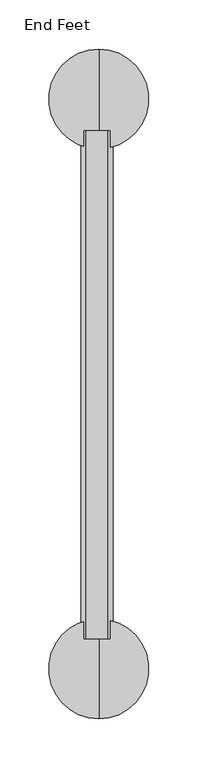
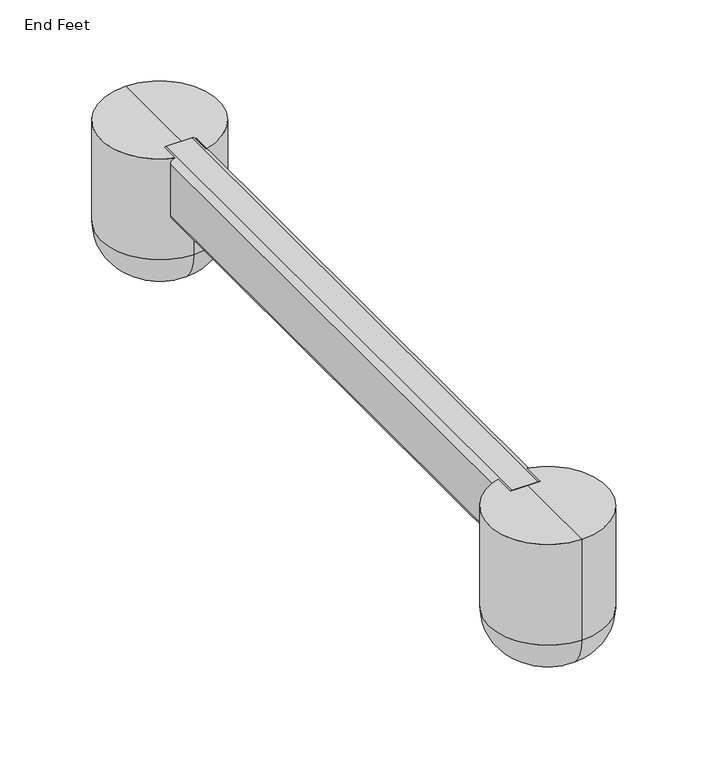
"""IFC4 building model written with IfcOpenShell, lengths in millimetres: furniture geometry, Coalesse_AM_Ensemble_Chaise_EndOption : End Feet."""

from ifc_helpers import new_model, si_unit, point, frame, frame_2d, origin, place, context, project, spatial, polyline, circle_curve, ellipse_curve, trimmed, segment, composite_curve, outline, extrude, source, transform, mapped, element, save
from ifc_brep_helpers import plane_surface, cylinder_surface, revolved_surface, advanced_brep


def end_feet_8e84b951(model_context):
    return source(origin(), model_context, "Body", "SolidModel", [
        extrude(outline(composite_curve([segment(polyline([(73.0866867, 192.2431485), (73.0866867, 214.5893009)]), True, "CONTINUOUS"), segment(trimmed(circle_curve(frame_2d((78.1666867, 214.5893009)), 5.08), [point((73.0866867, 214.5893009))], [point((78.1666867, 219.6693009))], False, "CARTESIAN"), True, "CONTINUOUS"), segment(polyline([(78.1666867, 219.6693009), (125.0107271, 219.6693009)]), True, "CONTINUOUS"), segment(trimmed(circle_curve(frame_2d((125.0107271, 214.5893009)), 5.08), [point((125.0107271, 219.6693009))], [point((130.0907271, 214.5893009))], False, "CARTESIAN"), True, "CONTINUOUS"), segment(polyline([(130.0907271, 214.5893009), (130.0907271, 192.2431485)]), True, "CONTINUOUS"), segment(trimmed(circle_curve(frame_2d((125.0107271, 192.2431485)), 5.08), [point((130.0907271, 192.2431485))], [point((125.0107271, 187.1631485))], False, "CARTESIAN"), True, "CONTINUOUS"), segment(polyline([(125.0107271, 187.1631485), (78.1666867, 187.1631485)]), True, "CONTINUOUS"), segment(trimmed(circle_curve(frame_2d((78.1666867, 192.2431485)), 5.08), [point((78.1666867, 187.1631485))], [point((73.0866867, 192.2431485))], False, "CARTESIAN"), True, "CONTINUOUS")], self_intersect=False)), frame((0.0, 146.0852096, 0.0), z_axis=(0.0, 1.0, 0.0), x_axis=(0.0, 0.0, 1.0)), (0.0, 0.0, 1.0), 518.3433707),
        advanced_brep(
        [(205.139512, 747.4877706, 130.0907271), (205.139512, 645.5490367, 130.0907271), (205.139512, 696.5184037, 130.0907271), (205.139512, 747.4877706, 38.1), (205.139512, 645.5490367, 38.1), (205.139512, 709.3877706, 0.0), (205.139512, 683.6490367, 0.0), (205.139512, 696.5184037, 0.0)],
        [
            (0, 1, circle_curve(frame((205.139512, 696.5184037, 130.0907271), z_axis=(0.0, 0.0, 1.0), x_axis=(0.0, -1.0, 0.0)), 50.969367)),
            (1, 2),
            (2, 0),
            (1, 0, circle_curve(frame((205.139512, 696.5184037, 130.0907271), z_axis=(0.0, 0.0, 1.0), x_axis=(0.0, -1.0, 0.0)), 50.969367)),
            (3, 4, circle_curve(frame((205.139512, 696.5184037, 38.1), z_axis=(0.0, 0.0, 1.0), x_axis=(0.0, -1.0, 0.0)), 50.969367)),
            (4, 1),
            (0, 3),
            (4, 3, circle_curve(frame((205.139512, 696.5184037, 38.1), z_axis=(0.0, 0.0, 1.0), x_axis=(0.0, -1.0, 0.0)), 50.969367)),
            (5, 6, circle_curve(frame((205.139512, 696.5184037, 0.0), z_axis=(0.0, 0.0, 1.0), x_axis=(0.0, -1.0, 0.0)), 12.869367)),
            (6, 4, circle_curve(frame((205.139512, 683.6490367, 38.1), z_axis=(-1.0, 0.0, 0.0), x_axis=(0.0, -1.0, 0.0)), 38.1)),
            (3, 5, circle_curve(frame((205.139512, 709.3877706, 38.1), z_axis=(-1.0, 0.0, 0.0), x_axis=(0.0, 1.0, 0.0)), 38.1)),
            (6, 5, circle_curve(frame((205.139512, 696.5184037, 0.0), z_axis=(0.0, 0.0, 1.0), x_axis=(0.0, -1.0, 0.0)), 12.869367)),
            (7, 6),
            (5, 7),
        ],
        [
            plane_surface(frame((205.139512, 696.5184037, 130.0907271), z_axis=(0.0, 0.0, 1.0), x_axis=(0.0, -1.0, 0.0))),
            cylinder_surface(frame((205.139512, 696.5184037, 130.0907271), z_axis=(0.0, 0.0, -1.0), x_axis=(0.0, -1.0, 0.0)), 50.969367),
            revolved_surface(trimmed(ellipse_curve(frame((205.139512, 683.6490367, 38.1), z_axis=(1.0, 0.0, 0.0), x_axis=(0.0, -1.0, 0.0)), 38.1, 38.1), [point((205.139512, 645.5490367, 38.1))], [point((205.139512, 683.6490367, 0.0))], True, "CARTESIAN"), (205.139512, 696.5184037, 130.0907271), (0.0, 0.0, -1.0)),
            plane_surface(frame((205.139512, 696.5184037, 0.0), z_axis=(0.0, 0.0, -1.0), x_axis=(0.0, -1.0, 0.0))),
        ],
        [
            (0, [[1, 2, 3]]),
            (0, [[4, -3, -2]]),
            (1, [[5, 6, -1, 7]]),
            (1, [[8, -7, -4, -6]]),
            (2, [[9, 10, -5, 11]]),
            (2, [[12, -11, -8, -10]]),
            (3, [[13, -9, 14]]),
            (3, [[-14, -12, -13]]),
        ],
    ),
        advanced_brep(
        [(205.139512, 166.4627706, 130.0907271), (205.139512, 64.5240367, 130.0907271), (205.139512, 115.4934037, 130.0907271), (205.139512, 166.4627706, 38.1), (205.139512, 64.5240367, 38.1), (205.139512, 128.3627706, 0.0), (205.139512, 102.6240367, 0.0), (205.139512, 115.4934037, 0.0)],
        [
            (0, 1, circle_curve(frame((205.139512, 115.4934037, 130.0907271), z_axis=(0.0, 0.0, 1.0), x_axis=(0.0, -1.0, 0.0)), 50.969367)),
            (1, 2),
            (2, 0),
            (1, 0, circle_curve(frame((205.139512, 115.4934037, 130.0907271), z_axis=(0.0, 0.0, 1.0), x_axis=(0.0, -1.0, 0.0)), 50.969367)),
            (3, 4, circle_curve(frame((205.139512, 115.4934037, 38.1), z_axis=(0.0, 0.0, 1.0), x_axis=(0.0, -1.0, 0.0)), 50.969367)),
            (4, 1),
            (0, 3),
            (4, 3, circle_curve(frame((205.139512, 115.4934037, 38.1), z_axis=(0.0, 0.0, 1.0), x_axis=(0.0, -1.0, 0.0)), 50.969367)),
            (5, 6, circle_curve(frame((205.139512, 115.4934037, 0.0), z_axis=(0.0, 0.0, 1.0), x_axis=(0.0, -1.0, 0.0)), 12.869367)),
            (6, 4, circle_curve(frame((205.139512, 102.6240367, 38.1), z_axis=(-1.0, 0.0, 0.0), x_axis=(0.0, -1.0, 0.0)), 38.1)),
            (3, 5, circle_curve(frame((205.139512, 128.3627706, 38.1), z_axis=(-1.0, 0.0, 0.0), x_axis=(0.0, 1.0, 0.0)), 38.1)),
            (6, 5, circle_curve(frame((205.139512, 115.4934037, 0.0), z_axis=(0.0, 0.0, 1.0), x_axis=(0.0, -1.0, 0.0)), 12.869367)),
            (7, 6),
            (5, 7),
        ],
        [
            plane_surface(frame((205.139512, 115.4934037, 130.0907271), z_axis=(0.0, 0.0, 1.0), x_axis=(0.0, -1.0, 0.0))),
            cylinder_surface(frame((205.139512, 115.4934037, 130.0907271), z_axis=(0.0, 0.0, -1.0), x_axis=(0.0, -1.0, 0.0)), 50.969367),
            revolved_surface(trimmed(ellipse_curve(frame((205.139512, 102.6240367, 38.1), z_axis=(1.0, 0.0, 0.0), x_axis=(0.0, -1.0, 0.0)), 38.1, 38.1), [point((205.139512, 64.5240367, 38.1))], [point((205.139512, 102.6240367, 0.0))], True, "CARTESIAN"), (205.139512, 115.4934037, 130.0907271), (0.0, 0.0, -1.0)),
            plane_surface(frame((205.139512, 115.4934037, 0.0), z_axis=(0.0, 0.0, -1.0), x_axis=(0.0, -1.0, 0.0))),
        ],
        [
            (0, [[1, 2, 3]]),
            (0, [[4, -3, -2]]),
            (1, [[5, 6, -1, 7]]),
            (1, [[8, -7, -4, -6]]),
            (2, [[9, 10, -5, 11]]),
            (2, [[12, -11, -8, -10]]),
            (3, [[13, -9, 14]]),
            (3, [[-14, -12, -13]]),
        ],
    ),
    ])


if __name__ == "__main__":
    model = new_model("IFC4")
    model_context = context("Model", 3, world=origin())
    ifc_project = project(units=[si_unit("LENGTHUNIT", "METRE", prefix="MILLI")], contexts=[model_context])
    site = spatial("IfcSite", under=ifc_project)
    building = spatial("IfcBuilding", under=site)
    placement = place(None, origin())
    end_feet_shape = end_feet_8e84b951(model_context)
    element("IfcFurniture", 1, ObjectType="Coalesse_AM_Ensemble_Chaise_EndOption : End Feet", at=placement, inside=building, context=model_context, shape_type="MappedRepresentation", body=[
        mapped(end_feet_shape, transform((0.0, 0.0, 0.0), x_axis=(1.0, 0.0, 0.0), y_axis=(0.0, 1.0, 0.0), z_axis=(0.0, 0.0, 1.0))),
    ])
    save(model, "model.ifc")
